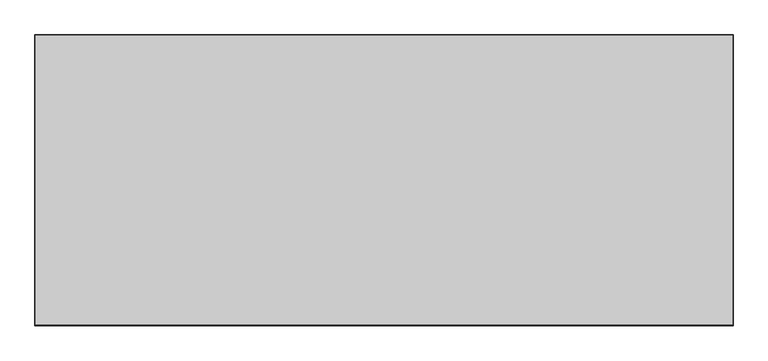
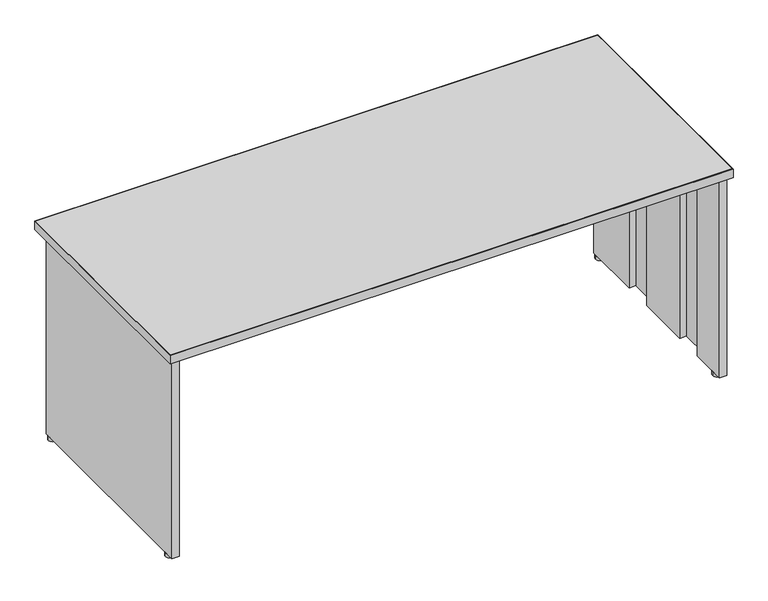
"""IFC4 building model written with IfcOpenShell, lengths in millimetres: furniture geometry, Steelcase - Kick Freestanding - Desk Shell - Partial Height Modesty Panel : 30D x 72W."""

from ifc_helpers import new_model, si_unit, point, frame, frame_2d, origin, origin_with_axes, place, context, project, spatial, polyline, circle_curve, trimmed, segment, composite_curve, outline, extrude, source, transform, mapped, element, save


def furniture_5ef8acb8(model_context):
    return source(origin(), model_context, "Body", "SweptSolid", [
        extrude(outline(polyline([(677.0450425, -999.9647597), (677.0450425, -974.5647604), (2431.4738425, -974.5647604), (2431.4738425, -999.9647597), (677.0450425, -999.9647597)])), frame((0.0, 0.0, 390.144), z_axis=(0.0, 0.0, 1.0), x_axis=(1.0, 0.0, 0.0)), (0.0, 0.0, 1.0), 304.8),
        extrude(outline(composite_curve([segment(trimmed(circle_curve(frame_2d((665.1357759, -986.9367877)), 13.97), [point((651.1657759, -986.9367877))], [point((679.1057759, -986.9367877))], False, "CARTESIAN"), True, "CONTINUOUS"), segment(trimmed(circle_curve(frame_2d((665.1357759, -986.9367877)), 13.97), [point((679.1057759, -986.9367877))], [point((651.1657759, -986.9367877))], False, "CARTESIAN"), True, "CONTINUOUS")], self_intersect=False)), origin_with_axes(), (0.0, 0.0, 1.0), 12.446),
        extrude(outline(composite_curve([segment(trimmed(circle_curve(frame_2d((665.1357759, -1646.0441481)), 13.97), [point((651.1657759, -1646.0441481))], [point((679.1057759, -1646.0441481))], False, "CARTESIAN"), True, "CONTINUOUS"), segment(trimmed(circle_curve(frame_2d((665.1357759, -1646.0441481)), 13.97), [point((679.1057759, -1646.0441481))], [point((651.1657759, -1646.0441481))], False, "CARTESIAN"), True, "CONTINUOUS")], self_intersect=False)), origin_with_axes(), (0.0, 0.0, 1.0), 12.446),
        extrude(outline(polyline([(2431.4738425, -1172.2529604), (2431.4738425, -972.7867604), (2455.9594421, -972.7867604), (2455.9594421, -1680.938741), (2431.4738421, -1680.938741), (2431.4738421, -1556.6311348), (2453.9020425, -1556.6311348), (2453.9020425, -1456.9107682), (2431.4738421, -1456.9107682), (2431.4738421, -1271.9733647), (2453.9020425, -1271.9733647), (2453.9020425, -1172.2529604), (2431.4738425, -1172.2529604)])), frame((0.0, 0.0, 12.446), z_axis=(0.0, 0.0, 1.0), x_axis=(1.0, 0.0, 0.0)), (0.0, 0.0, 1.0), 682.498),
        extrude(outline(polyline([(677.0450425, -1172.2529604), (654.6168425, -1172.2529604), (654.6168425, -1271.9733647), (677.0450429, -1271.9733647), (677.0450429, -1456.9107682), (654.6168425, -1456.9107682), (654.6168425, -1556.6311348), (677.0450429, -1556.6311348), (677.0450429, -1680.938741), (652.5594429, -1680.938741), (652.5594429, -972.7867604), (677.0450425, -972.7867604), (677.0450425, -1172.2529604)])), frame((0.0, 0.0, 12.446), z_axis=(0.0, 0.0, 1.0), x_axis=(1.0, 0.0, 0.0)), (0.0, 0.0, 1.0), 682.498),
        extrude(outline(polyline([(2467.6688425, -932.6293604), (2467.6688425, -1690.6669215), (640.8500425, -1690.6669215), (640.8500425, -932.6293604), (2467.6688425, -932.6293604)])), frame((0.0, 0.0, 694.944), z_axis=(0.0, 0.0, 1.0), x_axis=(1.0, 0.0, 0.0)), (0.0, 0.0, 1.0), 28.956),
        extrude(outline(polyline([(2468.6594425, -931.6387604), (2468.6594425, -1693.6387604), (639.8594425, -1693.6387604), (639.8594425, -931.6387604), (2468.6594425, -931.6387604)]), holes=[polyline([(2467.6688425, -932.6293604), (640.8500425, -932.6293604), (640.8500425, -1690.6669215), (2467.6688425, -1690.6669215), (2467.6688425, -932.6293604)])]), frame((0.0, 0.0, 694.944), z_axis=(0.0, 0.0, 1.0), x_axis=(1.0, 0.0, 0.0)), (0.0, 0.0, 1.0), 28.956),
        extrude(outline(composite_curve([segment(trimmed(circle_curve(frame_2d((2443.3831091, -1646.0441481)), 13.97), [point((2429.4131091, -1646.0441481))], [point((2457.3531091, -1646.0441481))], False, "CARTESIAN"), True, "CONTINUOUS"), segment(trimmed(circle_curve(frame_2d((2443.3831091, -1646.0441481)), 13.97), [point((2457.3531091, -1646.0441481))], [point((2429.4131091, -1646.0441481))], False, "CARTESIAN"), True, "CONTINUOUS")], self_intersect=False)), origin_with_axes(), (0.0, 0.0, 1.0), 12.446),
        extrude(outline(composite_curve([segment(trimmed(circle_curve(frame_2d((2443.3831091, -986.9367877)), 13.97), [point((2457.3531091, -986.9367877))], [point((2429.4131091, -986.9367877))], False, "CARTESIAN"), True, "CONTINUOUS"), segment(trimmed(circle_curve(frame_2d((2443.3831091, -986.9367877)), 13.97), [point((2429.4131091, -986.9367877))], [point((2457.3531091, -986.9367877))], False, "CARTESIAN"), True, "CONTINUOUS")], self_intersect=False)), origin_with_axes(), (0.0, 0.0, 1.0), 12.446),
    ])


if __name__ == "__main__":
    model = new_model("IFC4")
    model_context = context("Model", 3, world=origin())
    ifc_project = project(units=[si_unit("LENGTHUNIT", "METRE", prefix="MILLI")], contexts=[model_context])
    site = spatial("IfcSite", under=ifc_project)
    building = spatial("IfcBuilding", under=site)
    placement = place(None, origin())
    furniture_shape = furniture_5ef8acb8(model_context)
    element("IfcFurniture", 1, ObjectType="Steelcase - Kick Freestanding - Desk Shell - Partial Height Modesty Panel : 30D x 72W", at=placement, inside=building, context=model_context, shape_type="MappedRepresentation", body=[
        mapped(furniture_shape, transform((0.0, 0.0, 0.0), x_axis=(1.0, 0.0, 0.0), y_axis=(0.0, 1.0, 0.0), z_axis=(0.0, 0.0, 1.0))),
    ])
    save(model, "model.ifc")
